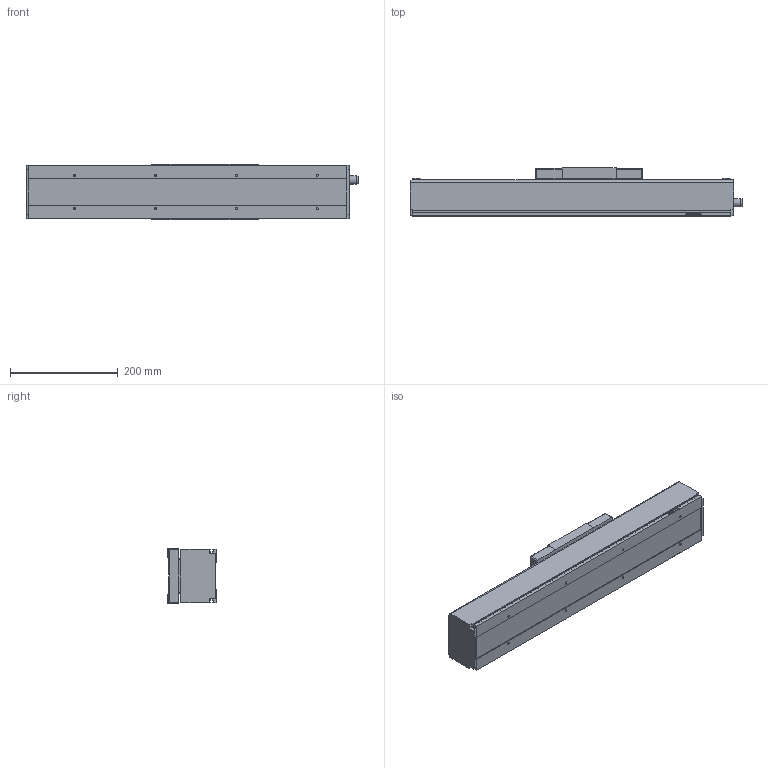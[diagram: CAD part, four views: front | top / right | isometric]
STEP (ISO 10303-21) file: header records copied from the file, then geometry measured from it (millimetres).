
FILE_DESCRIPTION(/* description */ (''),/* implementation_level */ '2;1');
FILE_NAME(/* name */ 'D:\混合母檔20191031\混和母檔\混和母檔\bin\Debug\Download\3D\KS100-10C-200AFI\KS100-10C-200AFI.stp',/* time_stamp */ '2019-11-04T14:45:32+08:00',/* author */ ('user'),/* organization */ (''),/* preprocessor_version */ 'ST-DEVELOPER v16.13',/* originating_system */ 'Autodesk Inventor 2018',/* authorisation */ '');
FILE_SCHEMA (('AUTOMOTIVE_DESIGN { 1 0 10303 214 3 1 1 }'));
Length unit declared in the file: millimetre
Products named in the file (3): KS100-10C-200AFI; KS100-FI; KS100-SL
Assembly tree (2 placements, depth 2):
  KS100-10C-200AFI
    KS100-FI
    KS100-SL
Bounding box: 615.5 x 89 x 102.4 mm (x, y, z)
Volume: 1618209.1 mm3; surface area: 498964.9 mm2
Topology: 3 solids, 7 shells, 642 faces, 1766 edges, 1162 vertices
Faces by surface type: plane 345, bspline 136, cylinder 72, cone 69, torus 16, sphere 4
Full cylindrical faces by diameter (mm): 2.459 x4, 3.242 x4, 3.571 x8, 4 x4, 4.134 x8, 4.3 x4, 6 x7, 8 x4, 8.4 x4, 14 x1, 15.538 x1, 28 x1, 30 x1
Entity records: 24382 total; most frequent: CARTESIAN_POINT 9302, ORIENTED_EDGE 3276, DIRECTION 2629, EDGE_CURVE 1638, VERTEX_POINT 1122, LINE 1057, VECTOR 1057, EDGE_LOOP 790
